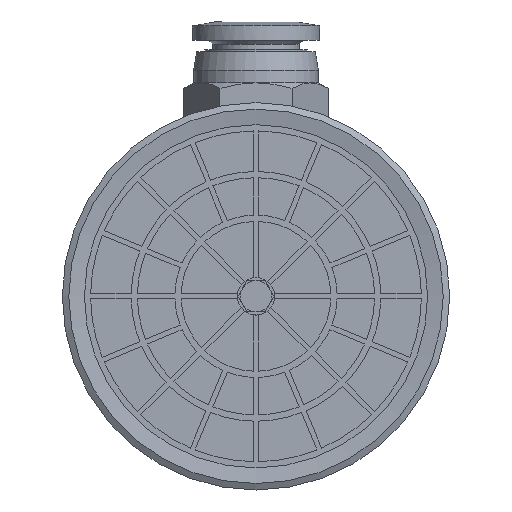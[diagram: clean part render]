
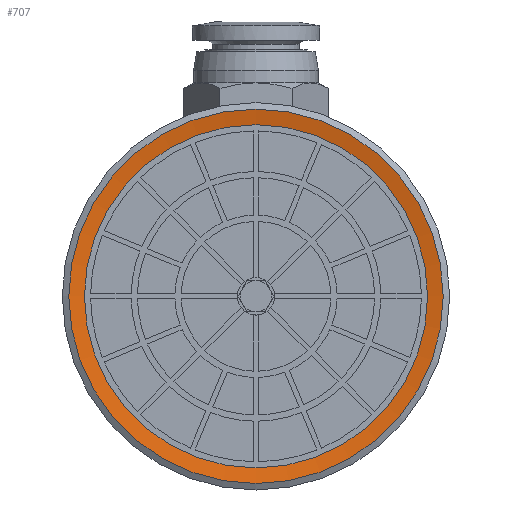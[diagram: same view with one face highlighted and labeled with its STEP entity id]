
A CAD part, front view. The second image highlights one B-rep face of the part: STEP entity #707.
In plain terms, the highlighted conical face has half-angle 80 degrees and reference radius 15 mm.
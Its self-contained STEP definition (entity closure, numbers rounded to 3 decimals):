
#707=ADVANCED_FACE('',(#1406,#1407),#1408,.F.);
#1406=FACE_BOUND('',#2541,.T.);
#1407=FACE_OUTER_BOUND('',#2542,.T.);
#1408=CONICAL_SURFACE('',#2543,15.0,1.396);
#2541=EDGE_LOOP('',(#4446));
#2542=EDGE_LOOP('',(#4447));
#2543=AXIS2_PLACEMENT_3D('',#4448,#4449,#4450);
#4446=ORIENTED_EDGE('',*,*,#6427,.T.);
#4447=ORIENTED_EDGE('',*,*,#6428,.F.);
#4448=CARTESIAN_POINT('',(0.0,0.,0.));
#4449=DIRECTION('',(0.0,0.,-1.0));
#4450=DIRECTION('',(0.0,1.0,0.));
#6427=EDGE_CURVE('',#7700,#7700,#7701,.T.);
#6428=EDGE_CURVE('',#7702,#7702,#7703,.T.);
#7700=VERTEX_POINT('',#10117);
#7701=CIRCLE('',#10118,13.75);
#7702=VERTEX_POINT('',#10119);
#7703=CIRCLE('',#10120,15.0);
#10117=CARTESIAN_POINT('',(0.0,-13.75,0.22));
#10118=AXIS2_PLACEMENT_3D('',#11701,#11702,#11703);
#10119=CARTESIAN_POINT('',(0.0,-15.0,0.));
#10120=AXIS2_PLACEMENT_3D('',#11704,#11705,#11706);
#11701=CARTESIAN_POINT('',(0.0,0.,0.22));
#11702=DIRECTION('',(0.0,0.,1.0));
#11703=DIRECTION('',(0.0,-1.0,0.));
#11704=CARTESIAN_POINT('',(0.0,0.,0.));
#11705=DIRECTION('',(0.0,0.,1.0));
#11706=DIRECTION('',(0.0,-1.0,0.));
